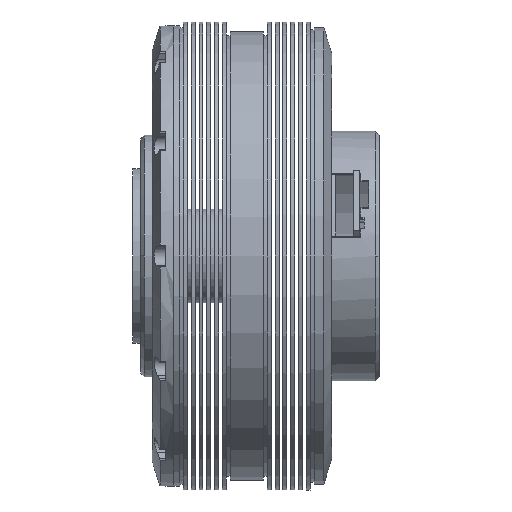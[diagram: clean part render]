
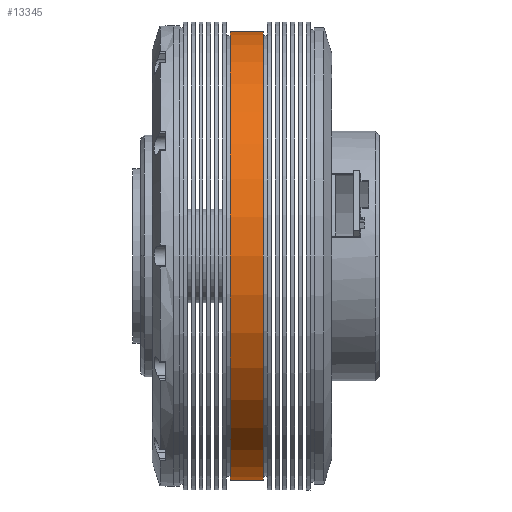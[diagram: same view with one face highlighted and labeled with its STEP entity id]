
A CAD part, front view. The second image highlights one B-rep face of the part: STEP entity #13345.
In plain terms, the highlighted cylindrical face has radius 57.5 mm (diameter 115 mm), a partial arc.
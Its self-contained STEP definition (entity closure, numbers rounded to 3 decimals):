
#65 = DIRECTION ( 'NONE',  ( -1., 0., 0. ) ) ;
#94 = VECTOR ( 'NONE', #14885, 1000. ) ;
#936 = CARTESIAN_POINT ( 'NONE',  ( 14.5, 0., 57.5 ) ) ;
#1799 = CARTESIAN_POINT ( 'NONE',  ( 14.5, 0., 0. ) ) ;
#2458 = AXIS2_PLACEMENT_3D ( 'NONE', #1799, #19944, #11078 ) ;
#3953 = ORIENTED_EDGE ( 'NONE', *, *, #21324, .F. ) ;
#4733 = VERTEX_POINT ( 'NONE', #22361 ) ;
#5059 = CARTESIAN_POINT ( 'NONE',  ( 23., 0., -57.5 ) ) ;
#5323 = EDGE_LOOP ( 'NONE', ( #3953, #16423, #8508, #17531 ) ) ;
#5522 = EDGE_CURVE ( 'NONE', #12079, #5647, #16341, .T. ) ;
#5647 = VERTEX_POINT ( 'NONE', #8235 ) ;
#5850 = CIRCLE ( 'NONE', #9295, 57.5 ) ;
#6286 = CARTESIAN_POINT ( 'NONE',  ( -44.5, 0., 0. ) ) ;
#6768 = DIRECTION ( 'NONE',  ( 0., 0., 1. ) ) ;
#8235 = CARTESIAN_POINT ( 'NONE',  ( 14.5, 0., -57.5 ) ) ;
#8365 = DIRECTION ( 'NONE',  ( 0., 0., 1. ) ) ;
#8508 = ORIENTED_EDGE ( 'NONE', *, *, #18557, .T. ) ;
#8930 = LINE ( 'NONE', #10946, #94 ) ;
#9164 = CARTESIAN_POINT ( 'NONE',  ( -44.5, 0., 57.5 ) ) ;
#9275 = LINE ( 'NONE', #9164, #19635 ) ;
#9295 = AXIS2_PLACEMENT_3D ( 'NONE', #14070, #17768, #6768 ) ;
#10946 = CARTESIAN_POINT ( 'NONE',  ( -44.5, 0., -57.5 ) ) ;
#11078 = DIRECTION ( 'NONE',  ( 0., 0., 1. ) ) ;
#11579 = CYLINDRICAL_SURFACE ( 'NONE', #16191, 57.5 ) ;
#12079 = VERTEX_POINT ( 'NONE', #936 ) ;
#12342 = VERTEX_POINT ( 'NONE', #5059 ) ;
#13345 = ADVANCED_FACE ( 'NONE', ( #21678 ), #11579, .T. ) ;
#14070 = CARTESIAN_POINT ( 'NONE',  ( 23., 0., 0. ) ) ;
#14885 = DIRECTION ( 'NONE',  ( -1., 0., 0. ) ) ;
#16191 = AXIS2_PLACEMENT_3D ( 'NONE', #6286, #21070, #8365 ) ;
#16341 = CIRCLE ( 'NONE', #2458, 57.5 ) ;
#16423 = ORIENTED_EDGE ( 'NONE', *, *, #17638, .T. ) ;
#17531 = ORIENTED_EDGE ( 'NONE', *, *, #5522, .T. ) ;
#17638 = EDGE_CURVE ( 'NONE', #12342, #4733, #5850, .T. ) ;
#17768 = DIRECTION ( 'NONE',  ( -1., 0., 0. ) ) ;
#18557 = EDGE_CURVE ( 'NONE', #4733, #12079, #9275, .T. ) ;
#19635 = VECTOR ( 'NONE', #65, 1000. ) ;
#19944 = DIRECTION ( 'NONE',  ( 1., 0., 0. ) ) ;
#21070 = DIRECTION ( 'NONE',  ( -1., 0., 0. ) ) ;
#21324 = EDGE_CURVE ( 'NONE', #12342, #5647, #8930, .T. ) ;
#21678 = FACE_OUTER_BOUND ( 'NONE', #5323, .T. ) ;
#22361 = CARTESIAN_POINT ( 'NONE',  ( 23., 0., 57.5 ) ) ;
